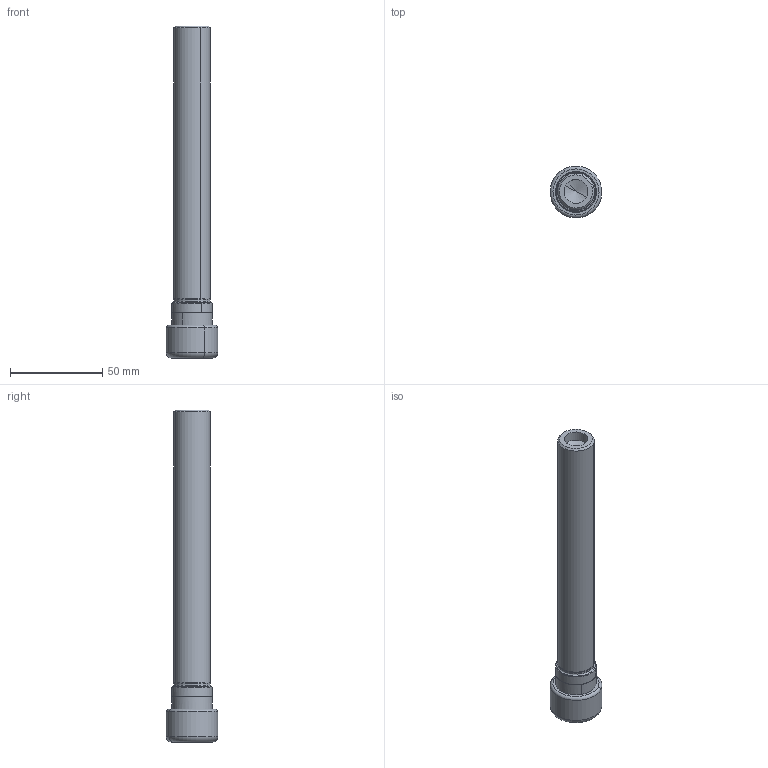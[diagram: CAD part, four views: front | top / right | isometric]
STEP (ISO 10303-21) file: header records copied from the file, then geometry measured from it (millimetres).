
FILE_DESCRIPTION(('CATIA V5 STEP','CAx-IF Rec.Pracs.--- Model Styling and Organization---1.2---2011-12-15'),'2;1');
FILE_NAME('\\nas01\drv1\utils\eitdev\rte\eit\transmagicconvert\db\out\635960517203672840\4507003-L-M.stp','2016-04-12T06:55:33+00:00',('none'),('none'),'CATIA Version 5 Release 21 SP 5 (IN-10)','CATIA V5 STEP AP214','none');
FILE_SCHEMA(('AUTOMOTIVE_DESIGN { 1 0 10303 214 1 1 1 1 }'));
Length unit declared in the file: millimetre
Products named in the file (1): ST 20X150 ER16
Bounding box: 27.99 x 27.99 x 180 mm (x, y, z)
Volume: 56586.5 mm3; surface area: 14375.9 mm2
Topology: 1 solids, 1 shells, 42 faces, 87 edges, 48 vertices
Faces by surface type: cylinder 16, cone 13, torus 8, plane 5
Entity records: 1016 total; most frequent: CARTESIAN_POINT 204, ORIENTED_EDGE 166, DIRECTION 134, EDGE_CURVE 83, AXIS2_PLACEMENT_3D 79, CIRCLE 51, VERTEX_POINT 48, EDGE_LOOP 47
